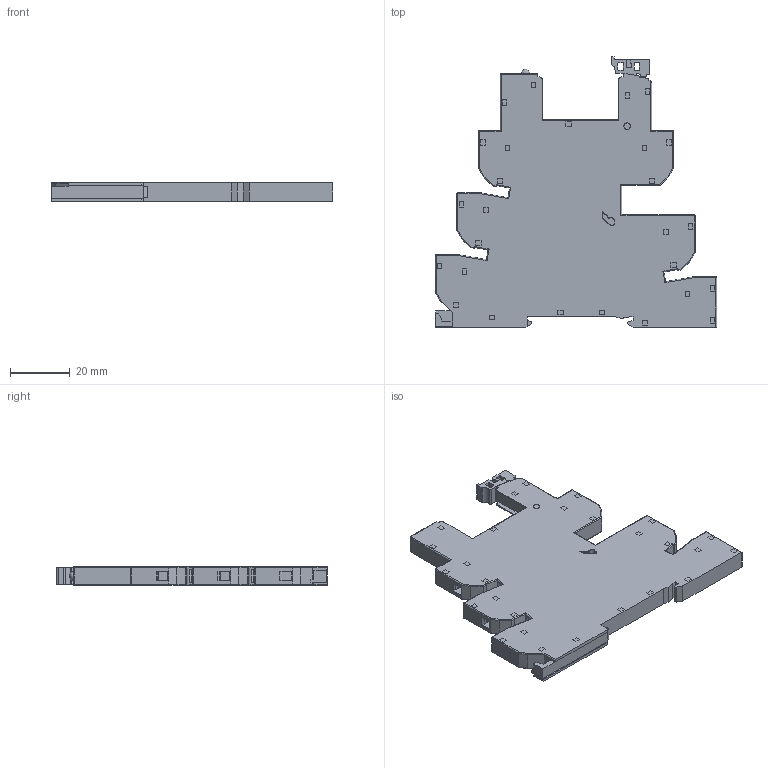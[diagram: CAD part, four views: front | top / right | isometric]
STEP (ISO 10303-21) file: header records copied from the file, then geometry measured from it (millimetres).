
FILE_DESCRIPTION(('STEP AP214'),'2;1');
FILE_NAME('93.63---skin.stp','2010-04-14T16:53:23',(''),(''),'2007.1.106','THINKDESIGN','');
FILE_SCHEMA(('AUTOMOTIVE_DESIGN'));
Products named in the file (1): None
Bounding box: 94.25 x 90.7 x 6.2 mm (x, y, z)
Surface area: 16575.8 mm2 (no closed solid volume)
Topology: 0 solids, 0 shells, 919 faces, 5412 edges, 5395 vertices
Faces by surface type: plane 756, cylinder 145, bspline 18
Full cylindrical faces by diameter (mm): 1.5 x5, 2.2 x2, 2.798 x5, 3.9 x5, 4.299 x5
Entity records: 53018 total; most frequent: CARTESIAN_POINT 13250, DIRECTION 7085, COMPOSITE_CURVE_SEGMENT 5395, TRIMMED_CURVE 5049, VECTOR 4815, LINE 4815, AXIS2_PLACEMENT_3D 1135, OUTER_BOUNDARY_CURVE 919
